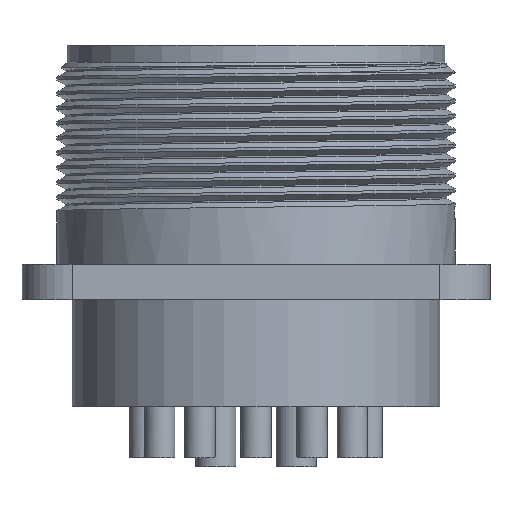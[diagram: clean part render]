
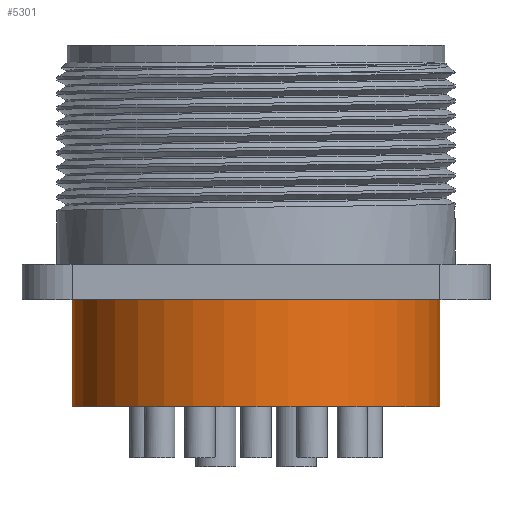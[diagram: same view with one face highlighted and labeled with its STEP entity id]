
A CAD part, front view. The second image highlights one B-rep face of the part: STEP entity #5301.
In plain terms, the highlighted cylindrical face has radius 17.46 mm (diameter 34.92 mm), a partial arc.
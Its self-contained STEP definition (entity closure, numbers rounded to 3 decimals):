
#526 = ORIENTED_EDGE ( 'NONE', *, *, #15269, .T. ) ;
#546 = DIRECTION ( 'NONE',  ( 0., 0., 1. ) ) ;
#552 = CARTESIAN_POINT ( 'NONE',  ( 0., 0., -24.15 ) ) ;
#661 = VECTOR ( 'NONE', #27342, 1000. ) ;
#781 = VERTEX_POINT ( 'NONE', #29228 ) ;
#886 = CARTESIAN_POINT ( 'NONE',  ( -17.46, 0., -24.15 ) ) ;
#1541 = ORIENTED_EDGE ( 'NONE', *, *, #22051, .T. ) ;
#2274 = EDGE_CURVE ( 'NONE', #23180, #12542, #49639, .T. ) ;
#3931 = CARTESIAN_POINT ( 'NONE',  ( -15.121, -8.73, -24.15 ) ) ;
#4271 = EDGE_CURVE ( 'NONE', #11098, #33235, #49490, .T. ) ;
#4726 = DIRECTION ( 'NONE',  ( 1., 0., 0. ) ) ;
#5301 = ADVANCED_FACE ( 'NONE', ( #39749 ), #6565, .T. ) ;
#5364 = ORIENTED_EDGE ( 'NONE', *, *, #17833, .T. ) ;
#6565 = CYLINDRICAL_SURFACE ( 'NONE', #46017, 17.46 ) ;
#6645 = ORIENTED_EDGE ( 'NONE', *, *, #40928, .T. ) ;
#6713 = VECTOR ( 'NONE', #27430, 1000. ) ;
#8423 = CARTESIAN_POINT ( 'NONE',  ( 17.46, 0., -34.35 ) ) ;
#10509 = DIRECTION ( 'NONE',  ( 0., 0., -1. ) ) ;
#10764 = CARTESIAN_POINT ( 'NONE',  ( -8.73, -15.121, -24.15 ) ) ;
#10862 = DIRECTION ( 'NONE',  ( 1., 0., 0. ) ) ;
#11098 = VERTEX_POINT ( 'NONE', #3931 ) ;
#12542 = VERTEX_POINT ( 'NONE', #41540 ) ;
#12902 = DIRECTION ( 'NONE',  ( 0., 0., 1. ) ) ;
#13983 = ORIENTED_EDGE ( 'NONE', *, *, #19616, .T. ) ;
#15269 = EDGE_CURVE ( 'NONE', #25903, #781, #25596, .T. ) ;
#15956 = AXIS2_PLACEMENT_3D ( 'NONE', #25345, #546, #29572 ) ;
#17833 = EDGE_CURVE ( 'NONE', #781, #44171, #18194, .T. ) ;
#17928 = CARTESIAN_POINT ( 'NONE',  ( 0., 0., -23.55 ) ) ;
#18194 = LINE ( 'NONE', #8423, #50166 ) ;
#18488 = EDGE_CURVE ( 'NONE', #25903, #33235, #33825, .T. ) ;
#18817 = DIRECTION ( 'NONE',  ( 0., 0., 1. ) ) ;
#19616 = EDGE_CURVE ( 'NONE', #44171, #23180, #23887, .T. ) ;
#20653 = LINE ( 'NONE', #24143, #29140 ) ;
#22051 = EDGE_CURVE ( 'NONE', #12542, #38048, #36899, .T. ) ;
#22121 = DIRECTION ( 'NONE',  ( 1., 0., 0. ) ) ;
#23180 = VERTEX_POINT ( 'NONE', #10764 ) ;
#23227 = CARTESIAN_POINT ( 'NONE',  ( -8.73, -15.121, -34.35 ) ) ;
#23887 = CIRCLE ( 'NONE', #24046, 17.46 ) ;
#24046 = AXIS2_PLACEMENT_3D ( 'NONE', #552, #29581, #4726 ) ;
#24143 = CARTESIAN_POINT ( 'NONE',  ( -15.121, -8.73, -34.35 ) ) ;
#24221 = ORIENTED_EDGE ( 'NONE', *, *, #2274, .T. ) ;
#25345 = CARTESIAN_POINT ( 'NONE',  ( 0., 0., -34.35 ) ) ;
#25596 = CIRCLE ( 'NONE', #15956, 17.46 ) ;
#25903 = VERTEX_POINT ( 'NONE', #52585 ) ;
#26213 = ORIENTED_EDGE ( 'NONE', *, *, #18488, .F. ) ;
#27342 = DIRECTION ( 'NONE',  ( 0., 0., 1. ) ) ;
#27430 = DIRECTION ( 'NONE',  ( 0., 0., 1. ) ) ;
#27480 = EDGE_LOOP ( 'NONE', ( #26213, #526, #5364, #13983, #24221, #1541, #6645, #37600 ) ) ;
#29140 = VECTOR ( 'NONE', #49315, 1000. ) ;
#29228 = CARTESIAN_POINT ( 'NONE',  ( 17.46, 0., -34.35 ) ) ;
#29572 = DIRECTION ( 'NONE',  ( 1., 0., 0. ) ) ;
#29581 = DIRECTION ( 'NONE',  ( 0., 0., -1. ) ) ;
#33235 = VERTEX_POINT ( 'NONE', #886 ) ;
#33600 = AXIS2_PLACEMENT_3D ( 'NONE', #17928, #47128, #22121 ) ;
#33825 = LINE ( 'NONE', #39610, #661 ) ;
#34542 = CARTESIAN_POINT ( 'NONE',  ( -15.121, -8.73, -23.55 ) ) ;
#35454 = CARTESIAN_POINT ( 'NONE',  ( 0., 0., -24.15 ) ) ;
#36899 = CIRCLE ( 'NONE', #33600, 17.46 ) ;
#37600 = ORIENTED_EDGE ( 'NONE', *, *, #4271, .T. ) ;
#38048 = VERTEX_POINT ( 'NONE', #34542 ) ;
#39610 = CARTESIAN_POINT ( 'NONE',  ( -17.46, 0., -34.35 ) ) ;
#39636 = DIRECTION ( 'NONE',  ( 1., 0., 0. ) ) ;
#39749 = FACE_OUTER_BOUND ( 'NONE', #27480, .T. ) ;
#40794 = AXIS2_PLACEMENT_3D ( 'NONE', #35454, #10509, #39636 ) ;
#40928 = EDGE_CURVE ( 'NONE', #38048, #11098, #20653, .T. ) ;
#41540 = CARTESIAN_POINT ( 'NONE',  ( -8.73, -15.121, -23.55 ) ) ;
#43330 = CARTESIAN_POINT ( 'NONE',  ( 17.46, 0., -24.15 ) ) ;
#44171 = VERTEX_POINT ( 'NONE', #43330 ) ;
#46017 = AXIS2_PLACEMENT_3D ( 'NONE', #52343, #18817, #10862 ) ;
#47128 = DIRECTION ( 'NONE',  ( 0., 0., -1. ) ) ;
#49315 = DIRECTION ( 'NONE',  ( 0., 0., -1. ) ) ;
#49490 = CIRCLE ( 'NONE', #40794, 17.46 ) ;
#49639 = LINE ( 'NONE', #23227, #6713 ) ;
#50166 = VECTOR ( 'NONE', #12902, 1000. ) ;
#52343 = CARTESIAN_POINT ( 'NONE',  ( 0., 0., -34.35 ) ) ;
#52585 = CARTESIAN_POINT ( 'NONE',  ( -17.46, 0., -34.35 ) ) ;
